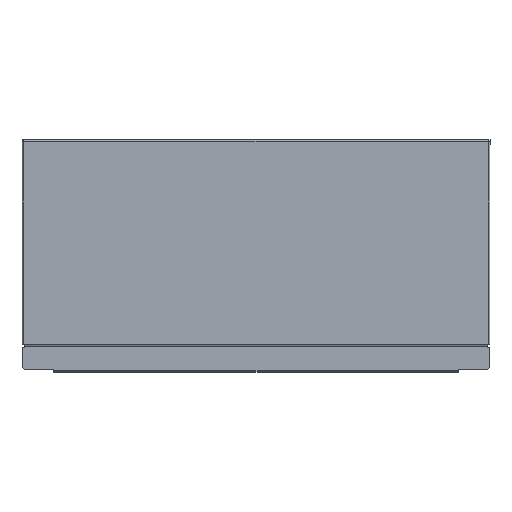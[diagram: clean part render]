
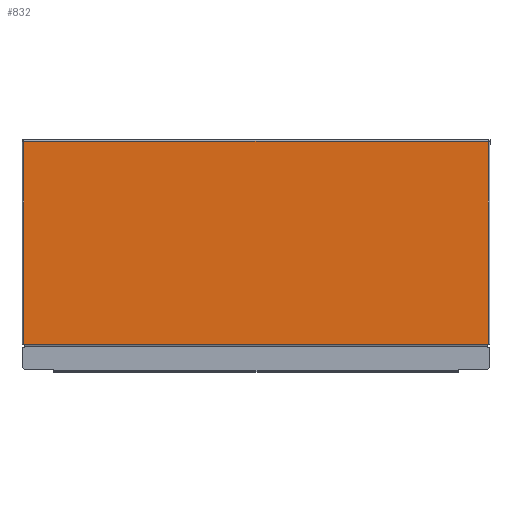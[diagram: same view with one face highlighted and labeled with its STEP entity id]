
A CAD part, front view. The second image highlights one B-rep face of the part: STEP entity #832.
In plain terms, the highlighted planar face has unit normal (0, -1, 0).
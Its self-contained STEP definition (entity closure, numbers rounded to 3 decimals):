
#35 = VERTEX_POINT ( 'NONE', #421 ) ;
#43 = VERTEX_POINT ( 'NONE', #419 ) ;
#101 = VERTEX_POINT ( 'NONE', #407 ) ;
#279 = CARTESIAN_POINT ( 'NONE',  ( 153.5, -6., 17.5 ) ) ;
#285 = CARTESIAN_POINT ( 'NONE',  ( -154., -6., 17.5 ) ) ;
#292 = CARTESIAN_POINT ( 'NONE',  ( -154., -6., 151.5 ) ) ;
#312 = CARTESIAN_POINT ( 'NONE',  ( -154., -6., 152. ) ) ;
#314 = CARTESIAN_POINT ( 'NONE',  ( -153.5, -6., 17. ) ) ;
#318 = CARTESIAN_POINT ( 'NONE',  ( 153.5, -6., 17. ) ) ;
#324 = CARTESIAN_POINT ( 'NONE',  ( 154., -6., 151.5 ) ) ;
#407 = CARTESIAN_POINT ( 'NONE',  ( -153.5, -6., 17.5 ) ) ;
#419 = CARTESIAN_POINT ( 'NONE',  ( 154., -6., 152. ) ) ;
#421 = CARTESIAN_POINT ( 'NONE',  ( 154., -6., 17.5 ) ) ;
#474 = VERTEX_POINT ( 'NONE', #324 ) ;
#479 = DIRECTION ( 'NONE',  ( 1., 0., 0. ) ) ;
#481 = CARTESIAN_POINT ( 'NONE',  ( -155., -6., 17. ) ) ;
#483 = DIRECTION ( 'NONE',  ( 0., 0., -1. ) ) ;
#484 = CARTESIAN_POINT ( 'NONE',  ( -153.5, -6., 17.5 ) ) ;
#485 = DIRECTION ( 'NONE',  ( 1., 0., 0. ) ) ;
#488 = CARTESIAN_POINT ( 'NONE',  ( -155., -6., 17.5 ) ) ;
#490 = DIRECTION ( 'NONE',  ( 0., 0., -1. ) ) ;
#492 = CARTESIAN_POINT ( 'NONE',  ( -154., -6., 170.385 ) ) ;
#495 = VERTEX_POINT ( 'NONE', #318 ) ;
#499 = VERTEX_POINT ( 'NONE', #314 ) ;
#501 = VERTEX_POINT ( 'NONE', #312 ) ;
#519 = VERTEX_POINT ( 'NONE', #292 ) ;
#525 = VERTEX_POINT ( 'NONE', #285 ) ;
#531 = VERTEX_POINT ( 'NONE', #279 ) ;
#741 = AXIS2_PLACEMENT_3D ( 'NONE', #1532, #1530, #1529 ) ;
#832 = ADVANCED_FACE ( 'NONE', ( #2291 ), #1533, .T. ) ;
#907 = EDGE_CURVE ( 'NONE', #519, #525, #2388, .T. ) ;
#908 = EDGE_CURVE ( 'NONE', #525, #101, #2390, .T. ) ;
#909 = EDGE_CURVE ( 'NONE', #101, #499, #2392, .T. ) ;
#910 = EDGE_CURVE ( 'NONE', #499, #495, #2394, .T. ) ;
#1059 = EDGE_LOOP ( 'NONE', ( #1975, #1974, #1973, #1972, #1971, #1970, #1969, #1968, #1967, #1966 ) ) ;
#1329 = CARTESIAN_POINT ( 'NONE',  ( 153.5, -6., 15.3 ) ) ;
#1330 = DIRECTION ( 'NONE',  ( 0., 0., 1. ) ) ;
#1331 = CARTESIAN_POINT ( 'NONE',  ( 153.5, -6., 17.5 ) ) ;
#1332 = DIRECTION ( 'NONE',  ( 1., 0., 0. ) ) ;
#1333 = CARTESIAN_POINT ( 'NONE',  ( 154., -6., 170.385 ) ) ;
#1334 = DIRECTION ( 'NONE',  ( 0., 0., -1. ) ) ;
#1335 = CARTESIAN_POINT ( 'NONE',  ( 154., -6., 170.385 ) ) ;
#1336 = DIRECTION ( 'NONE',  ( 0., 0., -1. ) ) ;
#1337 = CARTESIAN_POINT ( 'NONE',  ( -155., -6., 152. ) ) ;
#1338 = DIRECTION ( 'NONE',  ( 1., 0., 0. ) ) ;
#1339 = CARTESIAN_POINT ( 'NONE',  ( -154., -6., 170.385 ) ) ;
#1340 = DIRECTION ( 'NONE',  ( 0., 0., -1. ) ) ;
#1402 = EDGE_CURVE ( 'NONE', #495, #531, #2428, .T. ) ;
#1403 = EDGE_CURVE ( 'NONE', #531, #35, #2430, .T. ) ;
#1404 = EDGE_CURVE ( 'NONE', #474, #35, #2432, .T. ) ;
#1405 = EDGE_CURVE ( 'NONE', #43, #474, #2434, .T. ) ;
#1406 = EDGE_CURVE ( 'NONE', #501, #43, #2436, .T. ) ;
#1407 = EDGE_CURVE ( 'NONE', #501, #519, #2438, .T. ) ;
#1529 = DIRECTION ( 'NONE',  ( 1., 0., 0. ) ) ;
#1530 = DIRECTION ( 'NONE',  ( 0., -1., 0. ) ) ;
#1532 = CARTESIAN_POINT ( 'NONE',  ( -155., -6., 17. ) ) ;
#1533 = PLANE ( 'NONE',  #741 ) ;
#1966 = ORIENTED_EDGE ( 'NONE', *, *, #1407, .T. ) ;
#1967 = ORIENTED_EDGE ( 'NONE', *, *, #1406, .F. ) ;
#1968 = ORIENTED_EDGE ( 'NONE', *, *, #1405, .F. ) ;
#1969 = ORIENTED_EDGE ( 'NONE', *, *, #1404, .F. ) ;
#1970 = ORIENTED_EDGE ( 'NONE', *, *, #1403, .T. ) ;
#1971 = ORIENTED_EDGE ( 'NONE', *, *, #1402, .T. ) ;
#1972 = ORIENTED_EDGE ( 'NONE', *, *, #910, .T. ) ;
#1973 = ORIENTED_EDGE ( 'NONE', *, *, #909, .T. ) ;
#1974 = ORIENTED_EDGE ( 'NONE', *, *, #908, .T. ) ;
#1975 = ORIENTED_EDGE ( 'NONE', *, *, #907, .T. ) ;
#2291 = FACE_OUTER_BOUND ( 'NONE', #1059, .T. ) ;
#2388 = LINE ( 'NONE', #492, #2389 ) ;
#2389 = VECTOR ( 'NONE', #490, 1000. ) ;
#2390 = LINE ( 'NONE', #488, #2391 ) ;
#2391 = VECTOR ( 'NONE', #485, 1000. ) ;
#2392 = LINE ( 'NONE', #484, #2393 ) ;
#2393 = VECTOR ( 'NONE', #483, 1000. ) ;
#2394 = LINE ( 'NONE', #481, #2395 ) ;
#2395 = VECTOR ( 'NONE', #479, 1000. ) ;
#2428 = LINE ( 'NONE', #1329, #2429 ) ;
#2429 = VECTOR ( 'NONE', #1330, 1000. ) ;
#2430 = LINE ( 'NONE', #1331, #2431 ) ;
#2431 = VECTOR ( 'NONE', #1332, 1000. ) ;
#2432 = LINE ( 'NONE', #1333, #2433 ) ;
#2433 = VECTOR ( 'NONE', #1334, 1000. ) ;
#2434 = LINE ( 'NONE', #1335, #2435 ) ;
#2435 = VECTOR ( 'NONE', #1336, 1000. ) ;
#2436 = LINE ( 'NONE', #1337, #2437 ) ;
#2437 = VECTOR ( 'NONE', #1338, 1000. ) ;
#2438 = LINE ( 'NONE', #1339, #2439 ) ;
#2439 = VECTOR ( 'NONE', #1340, 1000. ) ;
